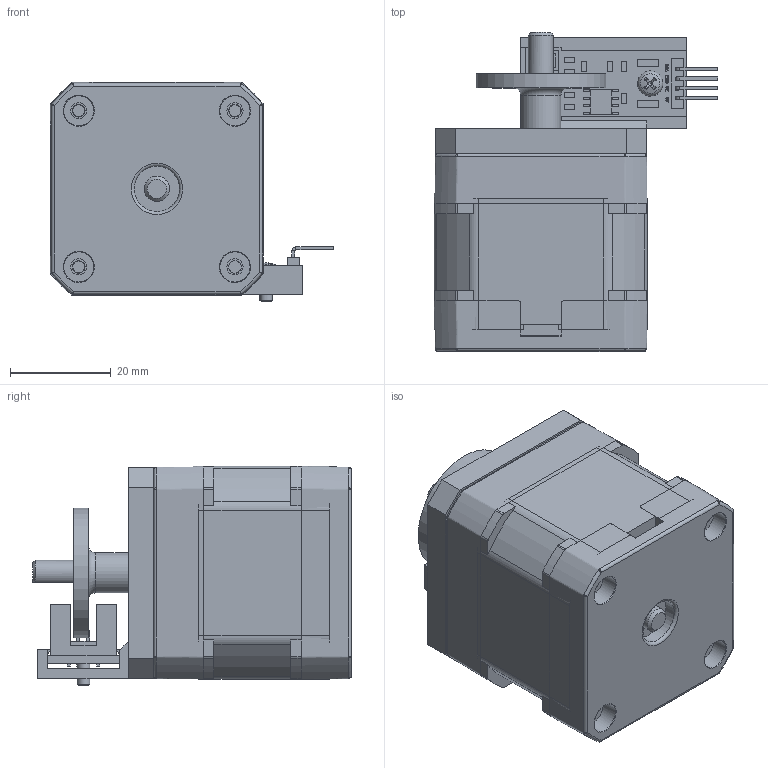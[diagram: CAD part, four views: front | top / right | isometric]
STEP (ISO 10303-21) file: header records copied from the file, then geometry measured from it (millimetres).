
FILE_DESCRIPTION(/* description */ (''),/* implementation_level */ '2;1');
FILE_NAME(/* name */ 'C:\Users\x300\Desktop\inventor\stepper_speed\lm393-nema-speed_control..stp',/* time_stamp */ '2023-05-16T08:30:45+02:00',/* author */ ('x300'),/* organization */ (''),/* preprocessor_version */ 'ST-DEVELOPER v19',/* originating_system */ 'Autodesk Inventor 2023',/* authorisation */ '');
FILE_SCHEMA (('AUTOMOTIVE_DESIGN { 1 0 10303 214 3 1 1 }'));
Products named in the file (7): Assieme2; disco_forato_01; supporto_sensore_01; nema17; Lm393 Motor Speed Measuring Sensor Module; AS 1420 - 1973 - M3 x 10; AS 1427 - M2,5 x 6
Assembly tree (8 placements, depth 2):
  Assieme2
    disco_forato_01
    supporto_sensore_01
    nema17
    Lm393 Motor Speed Measuring Sensor Module
    AS 1420 - 1973 - M3 x 10  x3
    AS 1427 - M2,5 x 6
Bounding box: 56.25 x 63.29 x 43.55 mm (x, y, z)
Volume: 63331 mm3; surface area: 31357.9 mm2
Topology: 12 solids, 12 shells, 1432 faces, 3821 edges, 2510 vertices
Faces by surface type: plane 865, bspline 385, cylinder 105, cone 37, torus 23, sphere 17
Full cylindrical faces by diameter (mm): 0.5 x1, 2.224 x1, 2.5 x6, 3 x4, 3.2 x7, 3.5 x4, 5 x2, 5.5 x3, 6 x7, 8 x1, 9 x2, 22 x1, 25 x1, 25.8 x1, 35 x1
Entity records: 60307 total; most frequent: CARTESIAN_POINT 27063, ORIENTED_EDGE 7494, DIRECTION 5311, EDGE_CURVE 3747, LINE 2613, VECTOR 2613, VERTEX_POINT 2461, EDGE_LOOP 1578
